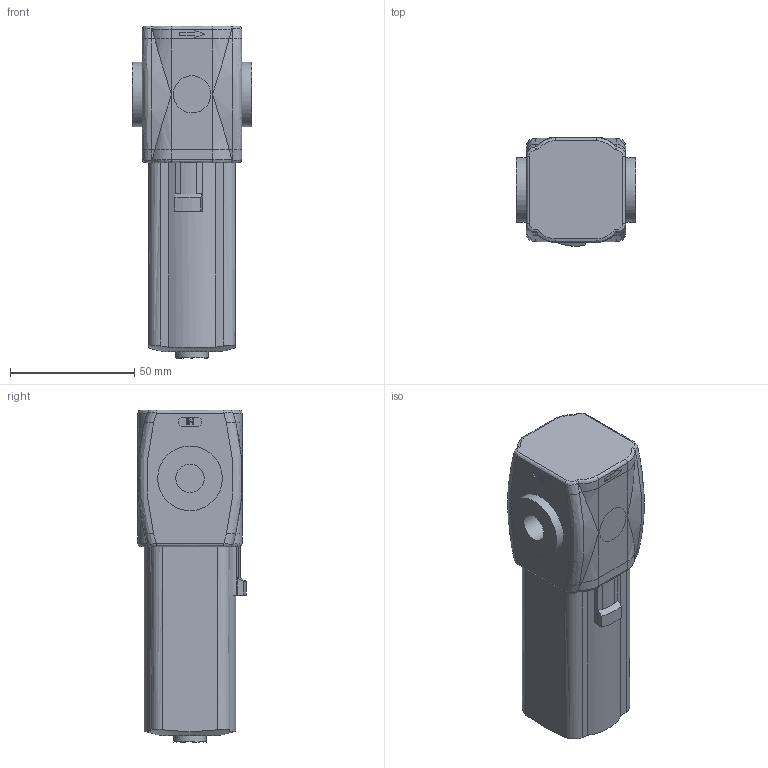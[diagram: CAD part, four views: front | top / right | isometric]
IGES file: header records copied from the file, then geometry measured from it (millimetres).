
Global section: file name: #171BD#S; native system: Autodesk Inventor 2014; preprocessor: unknown; author: M.Valota; organization: Pneumax S.p.A.; date: 20140522.091846; units: millimetre
Bounding box: 48 x 43.6 x 133.6 mm (x, y, z)
Volume: 180024.3 mm3; surface area: 22867.7 mm2
Topology: 1 solids, 1 shells, 203 faces, 507 edges, 323 vertices
Faces by surface type: bspline 203
